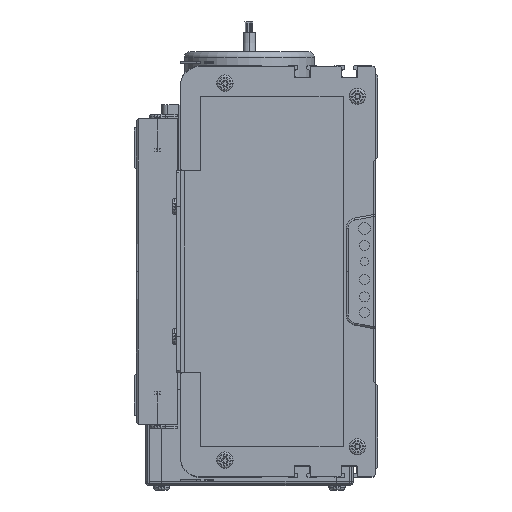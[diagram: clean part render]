
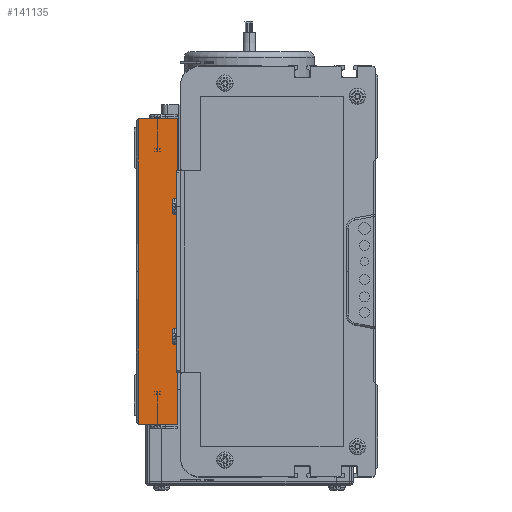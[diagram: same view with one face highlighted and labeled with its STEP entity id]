
A CAD part, left-side view. The second image highlights one B-rep face of the part: STEP entity #141135.
In plain terms, the highlighted planar face has unit normal (-1, 0, 0).
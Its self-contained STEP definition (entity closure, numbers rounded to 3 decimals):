
#90153 = LINE ( 'NONE', #90248, #90247 ) ;
#90246 = DIRECTION ( 'NONE',  ( 0., -1., 0. ) ) ;
#90247 = VECTOR ( 'NONE', #90246, 1000. ) ;
#90248 = CARTESIAN_POINT ( 'NONE',  ( 0., 20., -75. ) ) ;
#112016 = EDGE_CURVE ( 'NONE', #112070, #112130, #148027, .T. ) ;
#112070 = VERTEX_POINT ( 'NONE', #148979 ) ;
#112130 = VERTEX_POINT ( 'NONE', #149805 ) ;
#112493 = EDGE_CURVE ( 'NONE', #112551, #112130, #150989, .T. ) ;
#112551 = VERTEX_POINT ( 'NONE', #150918 ) ;
#126314 = PLANE ( 'NONE',  #126331 ) ;
#126331 = AXIS2_PLACEMENT_3D ( 'NONE', #126396, #126395, #126394 ) ;
#126338 = FACE_OUTER_BOUND ( 'NONE', #141205, .T. ) ;
#126384 = DIRECTION ( 'NONE',  ( 0., 0., -1. ) ) ;
#126385 = VECTOR ( 'NONE', #126384, 1000. ) ;
#126387 = CARTESIAN_POINT ( 'NONE',  ( 0., 19., 0. ) ) ;
#126391 = LINE ( 'NONE', #126387, #126385 ) ;
#126392 = CARTESIAN_POINT ( 'NONE',  ( 0., 19., 0. ) ) ;
#126394 = DIRECTION ( 'NONE',  ( 0., 0., -1. ) ) ;
#126395 = DIRECTION ( 'NONE',  ( 1., 0., 0. ) ) ;
#126396 = CARTESIAN_POINT ( 'NONE',  ( 0., 20., 0. ) ) ;
#126398 = CARTESIAN_POINT ( 'NONE',  ( 0., 19., -75. ) ) ;
#126437 = VECTOR ( 'NONE', #126535, 1000. ) ;
#126438 = CARTESIAN_POINT ( 'NONE',  ( 0., 19., 0. ) ) ;
#126535 = DIRECTION ( 'NONE',  ( 0., 0., -1. ) ) ;
#126549 = LINE ( 'NONE', #126438, #126437 ) ;
#140317 = EDGE_CURVE ( 'NONE', #141275, #112070, #90153, .T. ) ;
#141135 = ADVANCED_FACE ( 'NONE', ( #126338 ), #126314, .F. ) ;
#141140 = ORIENTED_EDGE ( 'NONE', *, *, #112493, .F. ) ;
#141147 = ORIENTED_EDGE ( 'NONE', *, *, #141309, .T. ) ;
#141149 = EDGE_CURVE ( 'NONE', #141197, #141275, #126391, .T. ) ;
#141197 = VERTEX_POINT ( 'NONE', #126392 ) ;
#141205 = EDGE_LOOP ( 'NONE', ( #141140, #141147, #141212, #141223, #141215 ) ) ;
#141212 = ORIENTED_EDGE ( 'NONE', *, *, #141149, .T. ) ;
#141215 = ORIENTED_EDGE ( 'NONE', *, *, #112016, .T. ) ;
#141223 = ORIENTED_EDGE ( 'NONE', *, *, #140317, .T. ) ;
#141275 = VERTEX_POINT ( 'NONE', #126398 ) ;
#141309 = EDGE_CURVE ( 'NONE', #112551, #141197, #126549, .T. ) ;
#148025 = CARTESIAN_POINT ( 'NONE',  ( 0., 0., 0. ) ) ;
#148027 = LINE ( 'NONE', #148025, #148134 ) ;
#148133 = DIRECTION ( 'NONE',  ( 0., 0., 1. ) ) ;
#148134 = VECTOR ( 'NONE', #148133, 1000. ) ;
#148979 = CARTESIAN_POINT ( 'NONE',  ( 0., 0., -75. ) ) ;
#149805 = CARTESIAN_POINT ( 'NONE',  ( 0., 0., 75. ) ) ;
#150918 = CARTESIAN_POINT ( 'NONE',  ( 0., 19., 75. ) ) ;
#150931 = DIRECTION ( 'NONE',  ( 0., -1., 0. ) ) ;
#150932 = VECTOR ( 'NONE', #150931, 1000. ) ;
#150987 = CARTESIAN_POINT ( 'NONE',  ( 0., 20., 75. ) ) ;
#150989 = LINE ( 'NONE', #150987, #150932 ) ;
